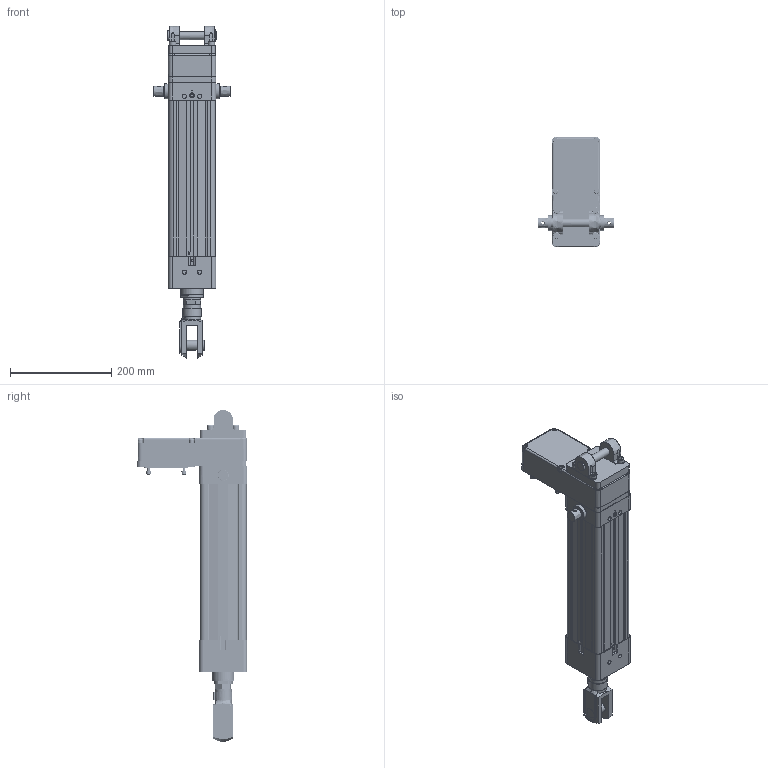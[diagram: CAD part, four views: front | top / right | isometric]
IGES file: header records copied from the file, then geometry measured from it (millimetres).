
Start section: SolidWorks IGES file using analytic representation for surfaces
Global section: file name: N:\Temp\RSA50_BNM05_SM200.000_RS-486802-1.igs; native system: SolidWorks 2024; preprocessor: SolidWorks 2024; author: MB; date: 250422.140418; units: inch
Bounding box: 150.11 x 217.27 x 655.1 mm (x, y, z)
Surface area: 605571.3 mm2 (no closed solid volume)
Topology: 0 solids, 2 shells, 1213 faces, 23347 edges, 23069 vertices
Faces by surface type: bspline 785, revolution 428
